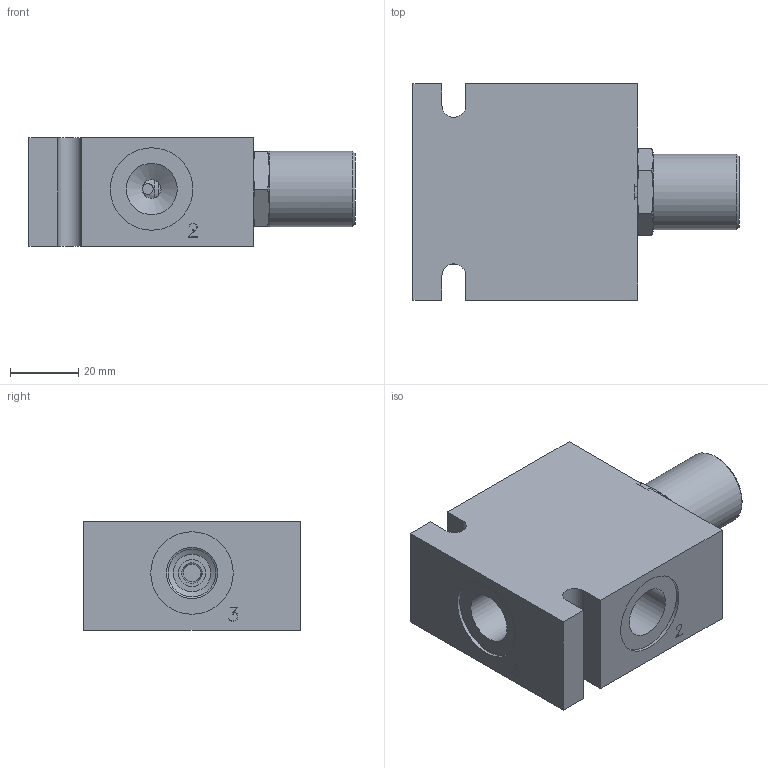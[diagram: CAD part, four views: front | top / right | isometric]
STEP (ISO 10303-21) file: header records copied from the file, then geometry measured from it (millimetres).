
FILE_DESCRIPTION( ( 'Unknown' ), '1' );
FILE_NAME( 'G:/Graphic Design/Graphic Design 2/Data Sheets/PRESSURE CONTROLS/2_STEP/Pressure Compensated Regulator Valves/D-PPPCC00-B3.stp', 'Unknown', ( 'Unknown' ), ( 'Unknown' ), 'PSStep 16.0.42', 'Unknown', ' ' );
FILE_SCHEMA( ( 'AUTOMOTIVE_DESIGN { 1 0 10303 214 1 1 1 1 }' ) );
Length unit declared in the file: millimetre
Products named in the file (7): PPPCC00-3D Full; Part26; Part28; Part30; Part32; Assem1; B-DPPB3
Assembly tree (6 placements, depth 3):
  Assem1
    B-DPPB3
    PPPCC00-3D Full
      Part26
      Part28
      Part30
      Part32
Bounding box: 95.68 x 63.5 x 31.75 mm (x, y, z)
Surface area: 28964.8 mm2 (no closed solid volume)
Topology: 0 solids, 218 shells, 218 faces, 939 edges, 861 vertices
Faces by surface type: plane 126, cylinder 53, cone 36, torus 3
Full cylindrical faces by diameter (mm): 0.2 x3, 3.175 x12, 5.5 x1, 7.935 x1, 10.5 x1, 11 x1, 11.455 x1, 12.421 x1, 13.056 x1, 13.437 x2, 14 x1, 14.021 x1, 14.199 x2, 14.326 x1, 15 x6, 15.037 x2, 15.799 x2, 15.824 x1, 15.926 x2, 16.751 x1, 17.33 x1, 22.225 x2, 24.2 x3
Entity records: 11990 total; most frequent: CARTESIAN_POINT 3915, DIRECTION 1134, VERTEX_POINT 827, ORIENTED_EDGE 824, EDGE_CURVE 824, AXIS2_PLACEMENT_3D 458, B_SPLINE_CURVE_WITH_KNOTS 374, FACE_BOUND 334
